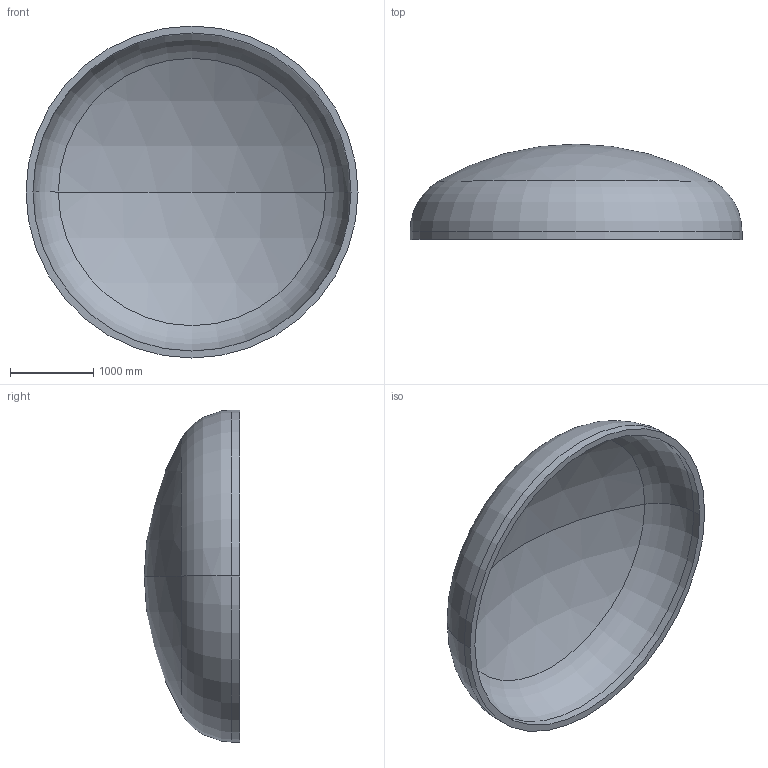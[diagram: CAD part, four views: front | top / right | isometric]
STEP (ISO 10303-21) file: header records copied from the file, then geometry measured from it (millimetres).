
FILE_DESCRIPTION (( 'STEP AP203' ), '1' );
FILE_NAME ('DIN 28013 Korbbogenform_-_Boden DIN 28013 - 4000 x 100 - I - s=84.step', '2016-07-01T22:42:34', ( '' ), ( '' ), 'SwSTEP 2.0', 'SolidWorks 2013', '' );
FILE_SCHEMA (( 'CONFIG_CONTROL_DESIGN' ));
Length unit declared in the file: millimetre
Products named in the file (1): DIN 28013 Korbbogenform_-_Boden DIN 28013 - 4000 x 100 - I - s=84
Bounding box: 4000 x 1150.25 x 4000 mm (x, y, z)
Volume: 1525001561.9 mm3; surface area: 37357734.2 mm2
Topology: 1 solids, 1 shells, 13 faces, 24 edges, 14 vertices
Faces by surface type: torus 4, cylinder 4, sphere 4, plane 1
Entity records: 407 total; most frequent: DIRECTION 72, CARTESIAN_POINT 52, ORIENTED_EDGE 48, AXIS2_PLACEMENT_3D 34, EDGE_CURVE 24, CIRCLE 20, EDGE_LOOP 14, VERTEX_POINT 14
